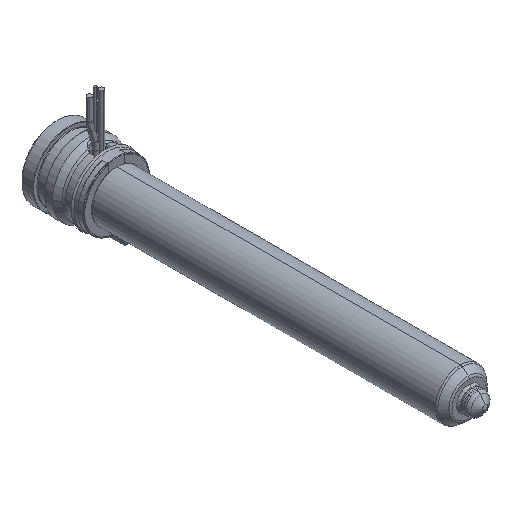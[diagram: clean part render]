
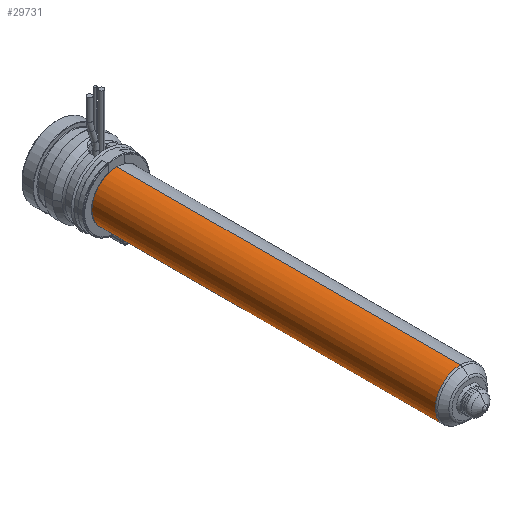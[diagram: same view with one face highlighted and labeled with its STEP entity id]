
A CAD part, isometric view. The second image highlights one B-rep face of the part: STEP entity #29731.
In plain terms, the highlighted cylindrical face has radius 9 mm (diameter 18 mm), a partial arc.
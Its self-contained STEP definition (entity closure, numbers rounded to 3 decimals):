
#29184=CARTESIAN_POINT('',(0.,-145.836,0.));
#29185=DIRECTION('',(0.,-1.,0.));
#29186=DIRECTION('',(0.,0.,1.));
#29187=AXIS2_PLACEMENT_3D('',#29184,#29185,#29186);
#29192=CARTESIAN_POINT('',(0.,-22.,0.));
#29193=DIRECTION('',(0.,-1.,0.));
#29194=DIRECTION('',(0.,0.,1.));
#29195=AXIS2_PLACEMENT_3D('',#29192,#29193,#29194);
#29200=DIRECTION('',(0.,-1.,0.));
#29201=VECTOR('',#29200,123.836);
#29202=CARTESIAN_POINT('',(0.,-22.,9.));
#29203=LINE('',#29202,#29201);
#29215=DIRECTION('',(0.,-1.,0.));
#29216=VECTOR('',#29215,123.836);
#29217=CARTESIAN_POINT('',(0.,-22.,-9.));
#29218=LINE('',#29217,#29216);
#29412=CARTESIAN_POINT('',(0.,-22.,9.));
#29413=CARTESIAN_POINT('',(0.,-145.836,9.));
#29414=VERTEX_POINT('',#29412);
#29415=VERTEX_POINT('',#29413);
#29434=CARTESIAN_POINT('',(0.,-22.,-9.));
#29435=CARTESIAN_POINT('',(0.,-145.836,-9.));
#29436=VERTEX_POINT('',#29434);
#29437=VERTEX_POINT('',#29435);
#29717=CARTESIAN_POINT('',(0.,-11.125,0.));
#29718=DIRECTION('',(0.,-1.,0.));
#29719=DIRECTION('',(0.,0.,1.));
#29720=AXIS2_PLACEMENT_3D('',#29717,#29718,#29719);
#29721=CYLINDRICAL_SURFACE('',#29720,9.);
#29723=ORIENTED_EDGE('',*,*,#29722,.T.);
#29724=ORIENTED_EDGE('',*,*,#29712,.T.);
#29726=ORIENTED_EDGE('',*,*,#29725,.F.);
#29728=ORIENTED_EDGE('',*,*,#29727,.F.);
#29729=EDGE_LOOP('',(#29723,#29724,#29726,#29728));
#29730=FACE_OUTER_BOUND('',#29729,.F.);
#29731=ADVANCED_FACE('',(#29730),#29721,.T.);
#29188=CIRCLE('',#29187,9.);
#29196=CIRCLE('',#29195,9.);
#29712=EDGE_CURVE('',#29415,#29437,#29188,.T.);
#29722=EDGE_CURVE('',#29414,#29415,#29203,.T.);
#29725=EDGE_CURVE('',#29436,#29437,#29218,.T.);
#29727=EDGE_CURVE('',#29414,#29436,#29196,.T.);
